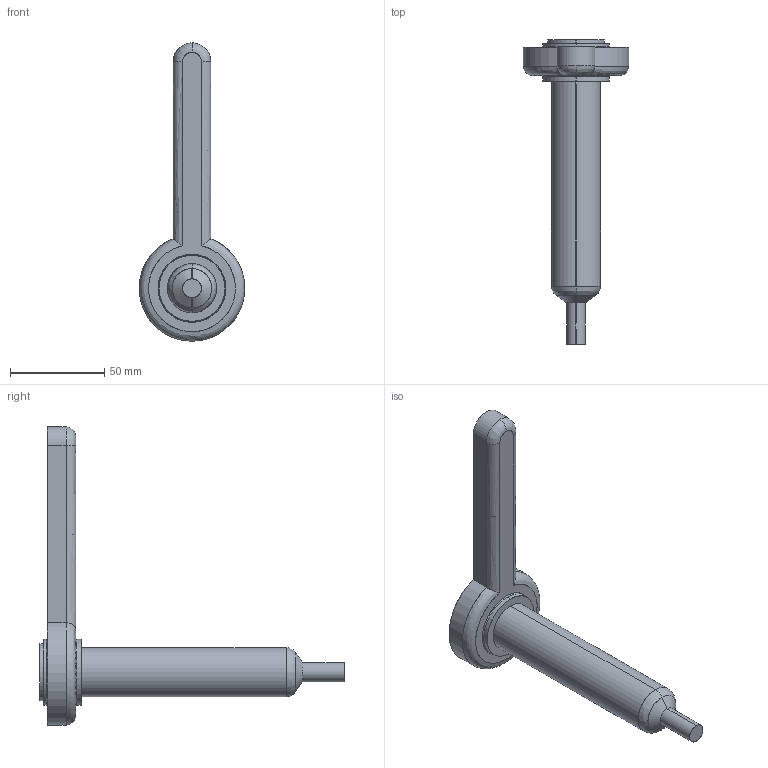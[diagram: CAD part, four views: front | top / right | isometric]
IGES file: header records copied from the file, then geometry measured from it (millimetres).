
Start section: SolidWorks IGES file using analytic representation for surfaces
Global section: file name: C:\Documents and Settings\ws-20\Desktop\TEM\Sede UGEP3153-S-A C-119 L-139 P-25.IGS; native system: SolidWorks 2012; preprocessor: SolidWorks 2012; author: ws-20; date: 120404.085531; units: millimetre
Bounding box: 56 x 161.3 x 158 mm (x, y, z)
Surface area: 24293.8 mm2 (no closed solid volume)
Topology: 0 solids, 0 shells, 34 faces, 754 edges, 754 vertices
Faces by surface type: revolution 21, bspline 13
